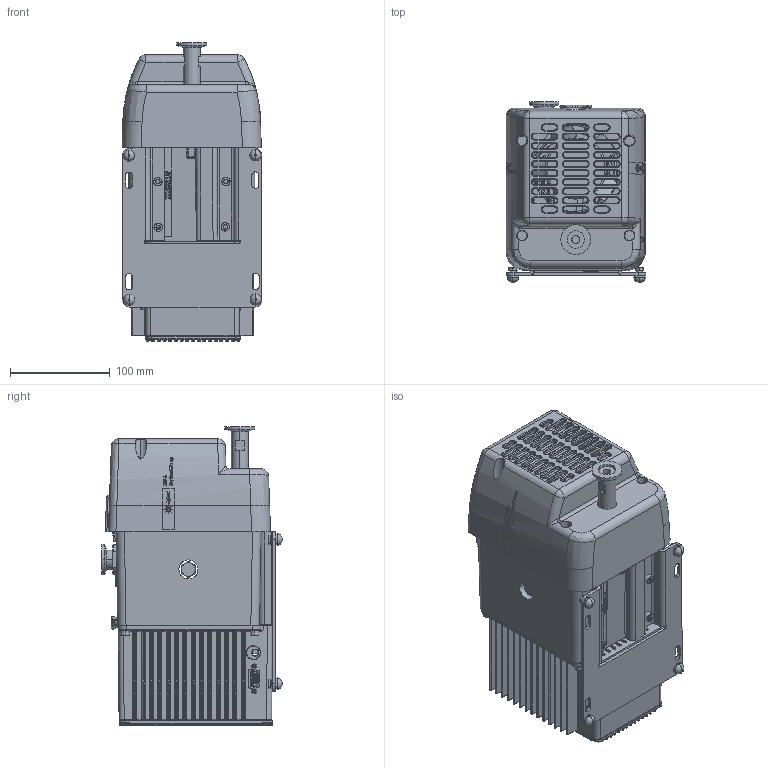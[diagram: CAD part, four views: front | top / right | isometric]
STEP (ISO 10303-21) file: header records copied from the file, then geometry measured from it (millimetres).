
FILE_DESCRIPTION (( 'STEP AP214' ), '1' );
FILE_NAME ('X3802-66600_1.02-outline.STEP', '2026-03-17T17:52:51', ( '' ), ( '' ), 'SwSTEP 2.0', 'SolidWorks 2025', '' );
FILE_SCHEMA (( 'AUTOMOTIVE_DESIGN' ));
Length unit declared in the file: millimetre
Products named in the file (1): X3802-66600_1.02-outline
Bounding box: 140.55 x 180.79 x 299.94 mm (x, y, z)
Surface area: 431310.3 mm2 (no closed solid volume)
Topology: 0 solids, 154 shells, 2635 faces, 10016 edges, 7243 vertices
Faces by surface type: plane 861, cylinder 736, bspline 540, cone 267, torus 162, sphere 69
Entity records: 173733 total; most frequent: CARTESIAN_POINT 70295, ORIENTED_EDGE 14838, DIRECTION 13046, EDGE_CURVE 9991, VERTEX_POINT 7243, AXIS2_PLACEMENT_3D 4551, LINE 3944, VECTOR 3944
